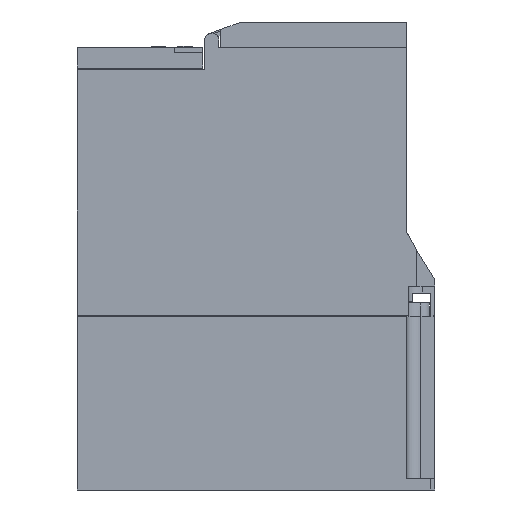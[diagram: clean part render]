
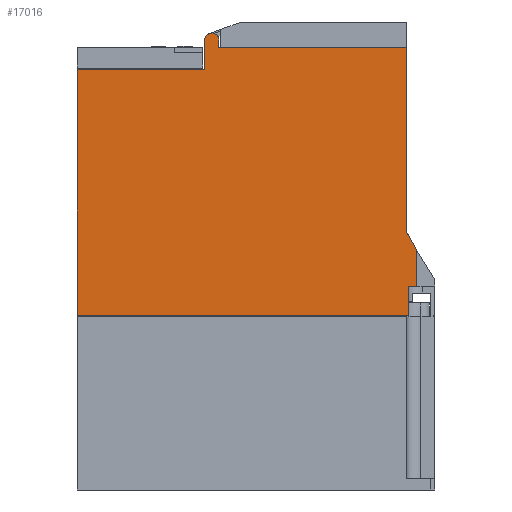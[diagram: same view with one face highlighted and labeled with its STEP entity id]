
A CAD part, left-side view. The second image highlights one B-rep face of the part: STEP entity #17016.
In plain terms, the highlighted planar face has unit normal (-1, 0, 0).
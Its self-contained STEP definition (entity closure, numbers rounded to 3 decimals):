
#2214=DIRECTION('',(0.,-1.,0.));
#2215=VECTOR('',#2214,118.5);
#2216=CARTESIAN_POINT('',(-34.,128.,0.5));
#2217=LINE('',#2216,#2215);
#3675=DIRECTION('',(0.,0.,1.));
#3676=VECTOR('',#3675,88.);
#3677=CARTESIAN_POINT('',(-34.,128.,0.5));
#3678=LINE('',#3677,#3676);
#3679=DIRECTION('',(0.,-0.017,1.));
#3680=VECTOR('',#3679,10.545);
#3681=CARTESIAN_POINT('',(-34.,82.484,88.5));
#3682=LINE('',#3681,#3680);
#3683=CARTESIAN_POINT('',(-34.,79.8,99.));
#3684=DIRECTION('',(1.,0.,0.));
#3685=DIRECTION('',(0.,1.,0.017));
#3686=AXIS2_PLACEMENT_3D('',#3683,#3684,#3685);
#3688=DIRECTION('',(0.,-0.017,-1.));
#3689=VECTOR('',#3688,2.544);
#3690=CARTESIAN_POINT('',(-34.,77.3,99.044));
#3691=LINE('',#3690,#3689);
#3692=DIRECTION('',(0.,0.,-1.));
#3693=VECTOR('',#3692,66.4);
#3694=CARTESIAN_POINT('',(-34.,10.,96.5));
#3695=LINE('',#3694,#3693);
#3696=DIRECTION('',(0.,-0.48,-0.877));
#3697=VECTOR('',#3696,7.078);
#3698=CARTESIAN_POINT('',(-34.,10.,30.1));
#3699=LINE('',#3698,#3697);
#3700=DIRECTION('',(0.,0.,1.));
#3701=VECTOR('',#3700,10.5);
#3702=CARTESIAN_POINT('',(-34.,9.5,0.5));
#3703=LINE('',#3702,#3701);
#3732=DIRECTION('',(0.,-1.,0.));
#3733=VECTOR('',#3732,45.516);
#3734=CARTESIAN_POINT('',(-34.,128.,88.5));
#3735=LINE('',#3734,#3733);
#7064=DIRECTION('',(0.,-1.,0.));
#7065=VECTOR('',#7064,67.256);
#7066=CARTESIAN_POINT('',(-34.,77.256,96.5));
#7067=LINE('',#7066,#7065);
#7200=DIRECTION('',(0.,0.,-1.));
#7201=VECTOR('',#7200,12.892);
#7202=CARTESIAN_POINT('',(-34.,6.6,23.892));
#7203=LINE('',#7202,#7201);
#7240=DIRECTION('',(0.,-1.,0.));
#7241=VECTOR('',#7240,2.9);
#7242=CARTESIAN_POINT('',(-34.,9.5,11.));
#7243=LINE('',#7242,#7241);
#9403=CARTESIAN_POINT('',(-34.,128.,88.5));
#9404=VERTEX_POINT('',#9403);
#9407=CARTESIAN_POINT('',(-34.,10.,96.5));
#9409=VERTEX_POINT('',#9407);
#9415=CARTESIAN_POINT('',(-34.,82.3,99.044));
#9416=CARTESIAN_POINT('',(-34.,77.3,99.044));
#9417=VERTEX_POINT('',#9415);
#9418=VERTEX_POINT('',#9416);
#9423=CARTESIAN_POINT('',(-34.,77.256,96.5));
#9424=VERTEX_POINT('',#9423);
#9632=CARTESIAN_POINT('',(-34.,128.,0.5));
#9634=VERTEX_POINT('',#9632);
#9703=CARTESIAN_POINT('',(-34.,82.484,88.5));
#9704=VERTEX_POINT('',#9703);
#9837=CARTESIAN_POINT('',(-34.,6.6,11.));
#9839=VERTEX_POINT('',#9837);
#9845=CARTESIAN_POINT('',(-34.,9.5,11.));
#9846=VERTEX_POINT('',#9845);
#9849=CARTESIAN_POINT('',(-34.,10.,30.1));
#9850=CARTESIAN_POINT('',(-34.,6.6,23.892));
#9851=VERTEX_POINT('',#9849);
#9852=VERTEX_POINT('',#9850);
#9901=CARTESIAN_POINT('',(-34.,9.5,0.5));
#9902=VERTEX_POINT('',#9901);
#16988=CARTESIAN_POINT('',(-34.,128.,0.));
#16989=DIRECTION('',(-1.,0.,0.));
#16990=DIRECTION('',(0.,-1.,0.));
#16991=AXIS2_PLACEMENT_3D('',#16988,#16989,#16990);
#16992=PLANE('',#16991);
#16993=ORIENTED_EDGE('',*,*,#14648,.F.);
#16995=ORIENTED_EDGE('',*,*,#16994,.T.);
#16997=ORIENTED_EDGE('',*,*,#16996,.T.);
#16999=ORIENTED_EDGE('',*,*,#16998,.T.);
#17001=ORIENTED_EDGE('',*,*,#17000,.T.);
#17003=ORIENTED_EDGE('',*,*,#17002,.T.);
#17005=ORIENTED_EDGE('',*,*,#17004,.T.);
#17007=ORIENTED_EDGE('',*,*,#17006,.T.);
#17008=ORIENTED_EDGE('',*,*,#14764,.T.);
#17010=ORIENTED_EDGE('',*,*,#17009,.T.);
#17012=ORIENTED_EDGE('',*,*,#17011,.F.);
#17013=ORIENTED_EDGE('',*,*,#16968,.F.);
#17014=EDGE_LOOP('',(#16993,#16995,#16997,#16999,#17001,#17003,#17005,#17007,
#17008,#17010,#17012,#17013));
#17015=FACE_OUTER_BOUND('',#17014,.F.);
#17016=ADVANCED_FACE('',(#17015),#16992,.T.);
#3687=CIRCLE('',#3686,2.5);
#14648=EDGE_CURVE('',#9634,#9902,#2217,.T.);
#14764=EDGE_CURVE('',#9851,#9852,#3699,.T.);
#16968=EDGE_CURVE('',#9902,#9846,#3703,.T.);
#16994=EDGE_CURVE('',#9634,#9404,#3678,.T.);
#16996=EDGE_CURVE('',#9404,#9704,#3735,.T.);
#16998=EDGE_CURVE('',#9704,#9417,#3682,.T.);
#17000=EDGE_CURVE('',#9417,#9418,#3687,.T.);
#17002=EDGE_CURVE('',#9418,#9424,#3691,.T.);
#17004=EDGE_CURVE('',#9424,#9409,#7067,.T.);
#17006=EDGE_CURVE('',#9409,#9851,#3695,.T.);
#17009=EDGE_CURVE('',#9852,#9839,#7203,.T.);
#17011=EDGE_CURVE('',#9846,#9839,#7243,.T.);
